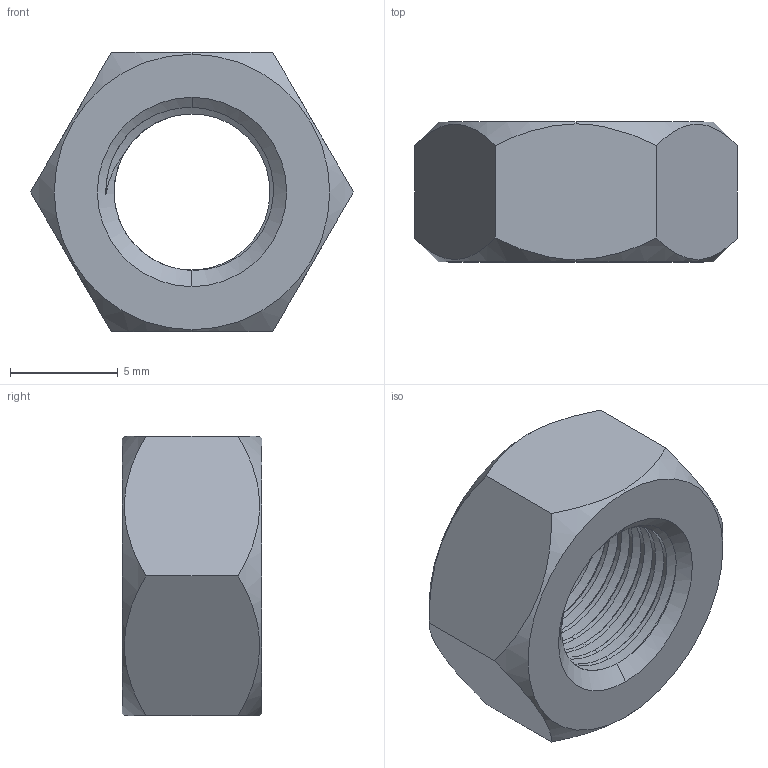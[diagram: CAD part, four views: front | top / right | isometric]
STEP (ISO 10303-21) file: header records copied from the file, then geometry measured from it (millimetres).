
FILE_DESCRIPTION (( 'STEP AP203' ), '1' );
FILE_NAME ('TANRM-304-M8x0.75.STEP', '2026-08-21T14:27:02', ( '' ), ( '' ), 'SwSTEP 2.0', 'SolidWorks 2020', '' );
FILE_SCHEMA (( 'CONFIG_CONTROL_DESIGN' ));
Length unit declared in the file: millimetre
Products named in the file (1): TANRM-304-M8x0.75
Bounding box: 15.01 x 6.5 x 13 mm (x, y, z)
Volume: 640.2 mm3; surface area: 690.2 mm2
Topology: 1 solids, 1 shells, 34 faces, 96 edges, 64 vertices
Faces by surface type: cylinder 15, cone 8, plane 8, bspline 3
Entity records: 3196 total; most frequent: CARTESIAN_POINT 2380, ORIENTED_EDGE 192, DIRECTION 112, EDGE_CURVE 96, VERTEX_POINT 64, AXIS2_PLACEMENT_3D 42, EDGE_LOOP 36, ADVANCED_FACE 34
